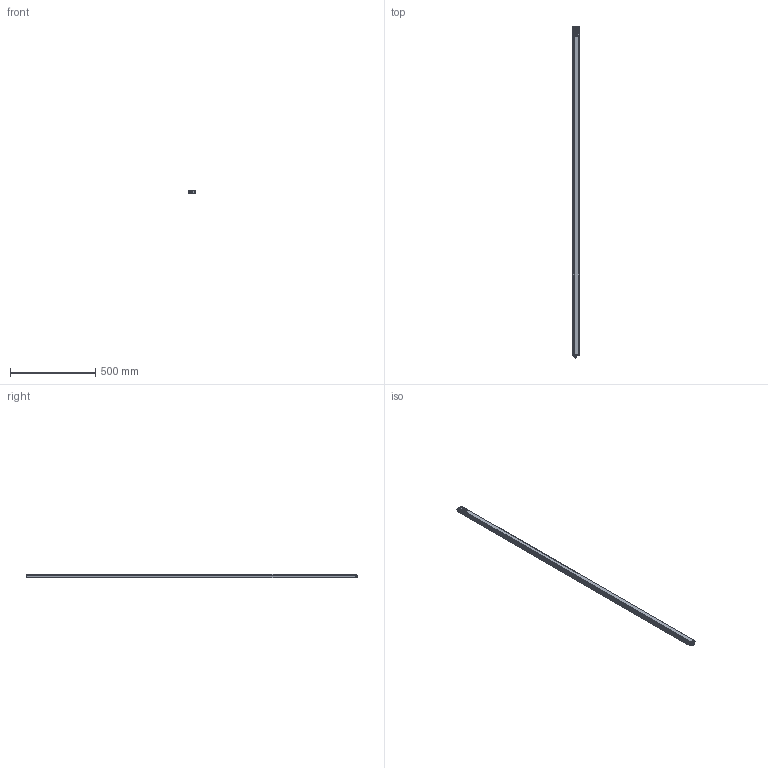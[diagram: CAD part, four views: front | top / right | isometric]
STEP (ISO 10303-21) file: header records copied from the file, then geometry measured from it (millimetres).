
FILE_DESCRIPTION(/* description */ (''),/* implementation_level */ '2;1');
FILE_NAME(/* name */ 'C:\Users\andre\SynologyDrive\Optoscan\Libreria Componenti\00 - Barriere\Polaris sorgente\Polaris_1920_TX.stp',/* time_stamp */ '2021-06-04T11:10:00+02:00',/* author */ ('andre'),/* organization */ (''),/* preprocessor_version */ 'ST-DEVELOPER v18',/* originating_system */ 'Autodesk Inventor 2020',/* authorisation */ '');
FILE_SCHEMA (('AUTOMOTIVE_DESIGN { 1 0 10303 214 3 1 1 }'));
Length unit declared in the file: millimetre
Products named in the file (1): Polaris_1920_TX
Bounding box: 40.5 x 1952.8 x 20.75 mm (x, y, z)
Volume: 383952.6 mm3; surface area: 507758.3 mm2
Topology: 1 solids, 1 shells, 738 faces, 2048 edges, 1320 vertices
Faces by surface type: plane 331, cylinder 207, bspline 115, torus 71, cone 8, sphere 6
Full cylindrical faces by diameter (mm): 1 x8, 2.459 x4, 2.5 x4, 3 x4, 3.5 x4, 5.5 x4, 8 x1, 10.5 x2, 11.75 x9, 12 x1, 12.3 x2, 14.5 x1, 16.7 x1, 17.5 x1
Entity records: 30426 total; most frequent: CARTESIAN_POINT 11243, ORIENTED_EDGE 4082, DIRECTION 3549, EDGE_CURVE 2041, VERTEX_POINT 1321, AXIS2_PLACEMENT_3D 1243, LINE 1063, VECTOR 1063
